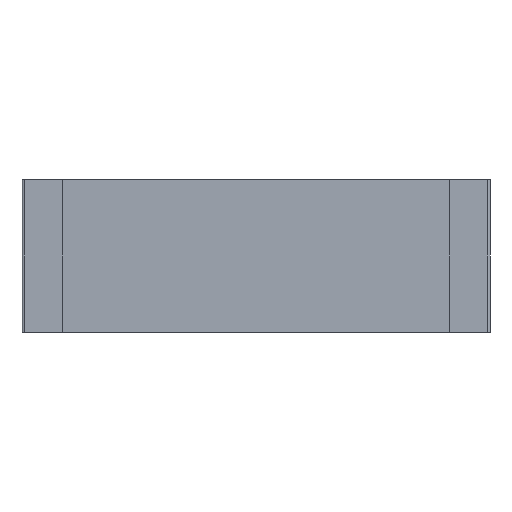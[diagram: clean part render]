
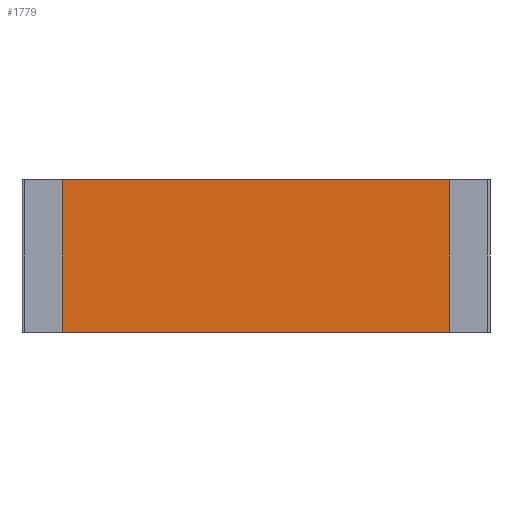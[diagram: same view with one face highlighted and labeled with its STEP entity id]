
A CAD part, front view. The second image highlights one B-rep face of the part: STEP entity #1779.
In plain terms, the highlighted planar face has unit normal (0, -1, 0).
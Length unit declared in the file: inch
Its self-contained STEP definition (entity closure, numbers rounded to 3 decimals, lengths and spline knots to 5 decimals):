
#69=FACE_OUTER_BOUND('',#167,.T.);
#167=EDGE_LOOP('',(#1178,#1179,#1180,#1181));
#265=LINE('',#2518,#497);
#270=LINE('',#2528,#502);
#271=LINE('',#2531,#503);
#272=LINE('',#2532,#504);
#497=VECTOR('',#2022,0.228);
#502=VECTOR('',#2031,0.075);
#503=VECTOR('',#2034,0.228);
#504=VECTOR('',#2035,0.075);
#726=VERTEX_POINT('',#2511);
#729=VERTEX_POINT('',#2516);
#732=VERTEX_POINT('',#2526);
#733=VERTEX_POINT('',#2530);
#905=EDGE_CURVE('',#729,#726,#265,.T.);
#910=EDGE_CURVE('',#729,#732,#270,.T.);
#911=EDGE_CURVE('',#733,#732,#271,.T.);
#912=EDGE_CURVE('',#726,#733,#272,.T.);
#1178=ORIENTED_EDGE('',*,*,#910,.T.);
#1179=ORIENTED_EDGE('',*,*,#911,.F.);
#1180=ORIENTED_EDGE('',*,*,#912,.F.);
#1181=ORIENTED_EDGE('',*,*,#905,.F.);
#1697=PLANE('',#1888);
#1779=ADVANCED_FACE('',(#69),#1697,.T.);
#1888=AXIS2_PLACEMENT_3D('',#2529,#2032,#2033);
#2022=DIRECTION('',(-1.,0.,0.));
#2031=DIRECTION('',(0.,0.,1.));
#2032=DIRECTION('center_axis',(0.,-1.,0.));
#2033=DIRECTION('ref_axis',(1.,0.,0.));
#2034=DIRECTION('',(1.,0.,0.));
#2035=DIRECTION('',(0.,0.,1.));
#2511=CARTESIAN_POINT('',(-0.114,0.001,-0.0375));
#2516=CARTESIAN_POINT('',(0.114,0.001,-0.0375));
#2518=CARTESIAN_POINT('',(-0.114,0.001,-0.0375));
#2526=CARTESIAN_POINT('',(0.114,0.001,0.0375));
#2528=CARTESIAN_POINT('',(0.114,0.001,0.));
#2529=CARTESIAN_POINT('Origin',(-0.114,0.001,0.));
#2530=CARTESIAN_POINT('',(-0.114,0.001,0.0375));
#2531=CARTESIAN_POINT('',(-0.114,0.001,0.0375));
#2532=CARTESIAN_POINT('',(-0.114,0.001,0.));
